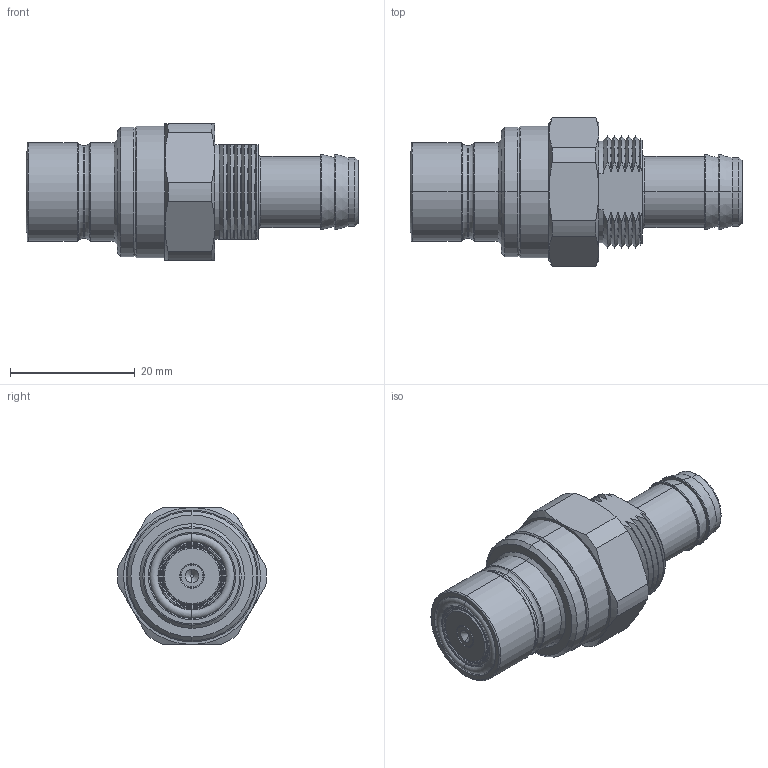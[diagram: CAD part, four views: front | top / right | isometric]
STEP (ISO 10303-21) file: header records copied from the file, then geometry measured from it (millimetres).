
FILE_DESCRIPTION (( 'STEP AP203' ), '1' );
FILE_NAME ('QD3-MT10-P.STEP', '2025-01-02T02:08:45', ( 'aksong' ), ( '' ), 'SwSTEP 2.0', 'SolidWorks 2012', '' );
FILE_SCHEMA (( 'CONFIG_CONTROL_DESIGN' ));
Length unit declared in the file: millimetre
Products named in the file (3): male body; 10mm panel¿ë barb, male ³ëÁñ; QD3-MT10-P
Assembly tree (2 placements, depth 2):
  QD3-MT10-P
    male body
    10mm panel¿ë barb, male ³ëÁñ
Bounding box: 53.32 x 23.88 x 22 mm (x, y, z)
Volume: 9961.5 mm3; surface area: 5235.7 mm2
Topology: 2 solids, 2 shells, 171 faces, 408 edges, 254 vertices
Faces by surface type: cone 62, cylinder 52, plane 29, torus 28
Entity records: 5389 total; most frequent: CARTESIAN_POINT 1082, DIRECTION 898, ORIENTED_EDGE 816, EDGE_CURVE 408, AXIS2_PLACEMENT_3D 386, VERTEX_POINT 254, CIRCLE 210, EDGE_LOOP 186
